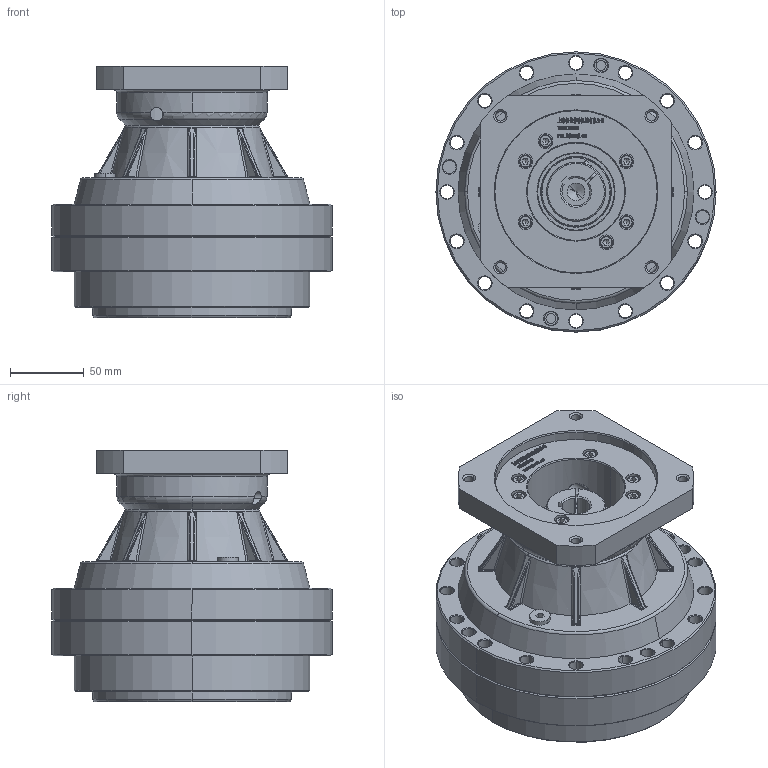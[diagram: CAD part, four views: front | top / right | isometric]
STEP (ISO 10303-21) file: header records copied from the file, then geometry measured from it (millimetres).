
FILE_DESCRIPTION (( 'STEP AP214' ), '1' );
FILE_NAME ('190BX-REA2-big-19key5-110145H42.STEP', '2022-11-12T13:03:00', ( '' ), ( '' ), 'SwSTEP 2.0', 'SolidWorks 2020', '' );
FILE_SCHEMA (( 'AUTOMOTIVE_DESIGN' ));
Length unit declared in the file: millimetre
Products named in the file (13): 190BX-OP-41k.stp; 錨璃289^190BX-REA2-big-19key5-110145H42; DIN 908 - M10 x 1.stp; 蹟隊 GB_T 70.1 M5 x 16.stp; DIN 3760 - AS - 35 x 47 x 7 - NBR.stp; 190BX-楊擘A-湮厒掀毀蚾.stp; 弹性挡圈GB 893.1-86 - 72.stp; 190BX-REA2-big-19key5-110145H42.stp; 蹟隊 GB_T 70.1 M5 x 20.stp; 190BX-REA2-big-19key5-110145H42; 190BX-REA-19湮厒掀毀蚾粣.stp; 粣創 6207-2RS GB_T 276-94.stp; 萇儂假蚾楊擘110-145H42-01.stp
Assembly tree (17 placements, depth 3):
  190BX-REA2-big-19key5-110145H42
    190BX-REA2-big-19key5-110145H42.stp
      190BX-OP-41k.stp
      190BX-楊擘A-湮厒掀毀蚾.stp
      粣創 6207-2RS GB_T 276-94.stp
      弹性挡圈GB 893.1-86 - 72.stp
      DIN 3760 - AS - 35 x 47 x 7 - NBR.stp
      萇儂假蚾楊擘110-145H42-01.stp
      蹟隊 GB_T 70.1 M5 x 16.stp
      蹟隊 GB_T 70.1 M5 x 20.stp  x6
      DIN 908 - M10 x 1.stp
      190BX-REA-19湮厒掀毀蚾粣.stp
    錨璃289^190BX-REA2-big-19key5-110145H42
Bounding box: 190 x 190 x 170.5 mm (x, y, z)
Volume: 2372069.2 mm3; surface area: 351671.6 mm2
Topology: 91 solids, 95 shells, 2836 faces, 7416 edges, 4775 vertices
Faces by surface type: plane 1321, bspline 636, cylinder 437, cone 333, torus 91, sphere 18
Entity records: 129633 total; most frequent: CARTESIAN_POINT 47569, ORIENTED_EDGE 14094, DIRECTION 10715, EDGE_CURVE 7047, VERTEX_POINT 4583, LINE 4357, VECTOR 4357, AXIS2_PLACEMENT_3D 3179
